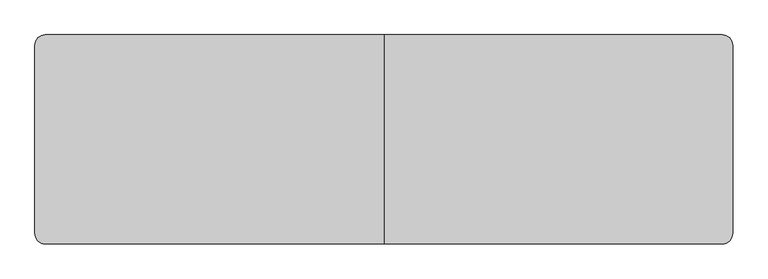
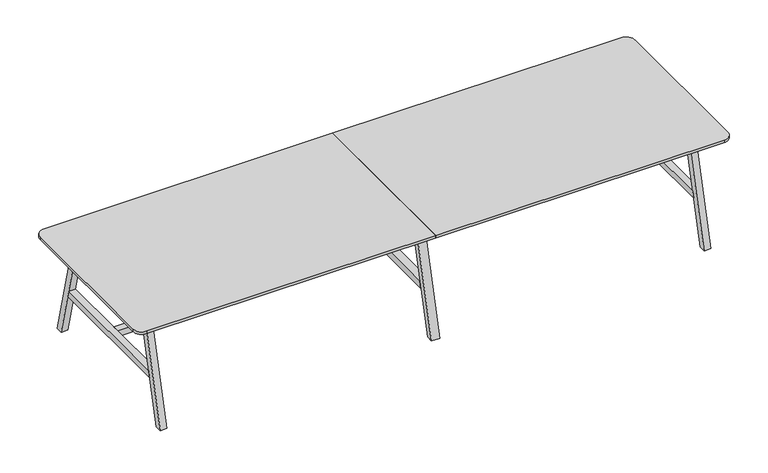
"""IFC4 building model written with IfcOpenShell, lengths in millimetres: furniture geometry, BDG_BossDesign_Tbls_AgentTables6Legs : AGE-DT-6L-4000-1200-3D."""

from ifc_helpers import new_model, si_unit, point, frame, frame_2d, origin, place, context, project, spatial, polyline, circle_curve, trimmed, segment, composite_curve, outline, extrude, source, transform, mapped, element, save


def furniture_56d79fee(model_context):
    return source(origin(), model_context, "Body", "SweptSolid", [
        extrude(outline(polyline([(600.0, 0.0), (554.9999949, 0.0), (385.5, 660.0), (430.5000051, 660.0), (600.0, 0.0)])), frame((-27.5, 0.0, 0.0), z_axis=(1.0, 0.0, 0.0), x_axis=(0.0, 1.0, 0.0)), (0.0, 0.0, 1.0), 55.0),
        extrude(outline(polyline([(-600.0, 0.0), (-430.5000051, 660.0), (-385.5, 660.0), (-554.9999949, 0.0), (-600.0, 0.0)])), frame((-27.5, 0.0, 0.0), z_axis=(1.0, 0.0, 0.0), x_axis=(0.0, 1.0, 0.0)), (0.0, 0.0, 1.0), 55.0),
        extrude(outline(polyline([(477.9545427, 300.0), (-477.9545427, 300.0), (-466.3977249, 345.0), (466.3977249, 345.0), (477.9545427, 300.0)])), frame((-27.5, 0.0, 0.0), z_axis=(1.0, 0.0, 0.0), x_axis=(0.0, 1.0, 0.0)), (0.0, 0.0, 1.0), 55.0),
        extrude(outline(composite_curve([segment(polyline([(0.0, 600.0), (0.0, -600.0), (-1940.0, -600.0)]), True, "CONTINUOUS"), segment(trimmed(circle_curve(frame_2d((-1940.0, -540.0)), 60.0), [point((-1940.0, -600.0))], [point((-2000.0, -540.0))], False, "CARTESIAN"), True, "CONTINUOUS"), segment(polyline([(-2000.0, -540.0), (-2000.0, 540.0)]), True, "CONTINUOUS"), segment(trimmed(circle_curve(frame_2d((-1940.0, 540.0)), 60.0), [point((-2000.0, 540.0))], [point((-1940.0, 600.0))], False, "CARTESIAN"), True, "CONTINUOUS"), segment(polyline([(-1940.0, 600.0), (0.0, 600.0)]), True, "CONTINUOUS")], self_intersect=False)), frame((0.0, 0.0, 722.0), z_axis=(0.0, 0.0, 1.0), x_axis=(1.0, 0.0, 0.0)), (0.0, 0.0, 1.0), 18.0),
        extrude(outline(polyline([(-466.3977249, 345.0), (466.3977249, 345.0), (477.9545427, 300.0), (-477.9545427, 300.0), (-466.3977249, 345.0)])), frame((1805.0, 0.0, 0.0), z_axis=(1.0, 0.0, 0.0), x_axis=(0.0, 1.0, 0.0)), (0.0, 0.0, 1.0), 45.0),
        extrude(outline(polyline([(600.0, 0.0), (554.9999949, 0.0), (385.5, 660.0), (430.5000051, 660.0), (600.0, 0.0)])), frame((-1850.0, 0.0, 0.0), z_axis=(1.0, 0.0, 0.0), x_axis=(0.0, 1.0, 0.0)), (0.0, 0.0, 1.0), 45.0),
        extrude(outline(polyline([(-600.0, 0.0), (-430.5000051, 660.0), (-385.5, 660.0), (-554.9999949, 0.0), (-600.0, 0.0)])), frame((-1850.0, 0.0, 0.0), z_axis=(1.0, 0.0, 0.0), x_axis=(0.0, 1.0, 0.0)), (0.0, 0.0, 1.0), 45.0),
        extrude(outline(polyline([(-466.3977249, 345.0), (466.3977249, 345.0), (477.9545427, 300.0), (-477.9545427, 300.0), (-466.3977249, 345.0)])), frame((-1850.0, 0.0, 0.0), z_axis=(1.0, 0.0, 0.0), x_axis=(0.0, 1.0, 0.0)), (0.0, 0.0, 1.0), 45.0),
        extrude(outline(polyline([(-426.6006165, 634.973938), (-404.2770691, 722.0), (-379.5, 722.0), (-401.8235474, 634.973938), (-426.6006165, 634.973938)])), frame((-1805.0, 0.0, 0.0), z_axis=(1.0, 0.0, 0.0), x_axis=(0.0, 1.0, 0.0)), (0.0, 0.0, 1.0), 3610.0),
        extrude(outline(polyline([(426.6006165, 634.973938), (401.8235474, 634.973938), (379.5, 722.0), (404.2770691, 722.0), (426.6006165, 634.973938)])), frame((-1805.0, 0.0, 0.0), z_axis=(1.0, 0.0, 0.0), x_axis=(0.0, 1.0, 0.0)), (0.0, 0.0, 1.0), 3610.0),
        extrude(outline(polyline([(599.7999878, 0.0), (554.7999827, 0.0), (385.5, 660.0), (430.5000051, 660.0), (599.7999878, 0.0)])), frame((1805.0, 0.0, 0.0), z_axis=(1.0, 0.0, 0.0), x_axis=(0.0, 1.0, 0.0)), (0.0, 0.0, 1.0), 45.0),
        extrude(outline(polyline([(-599.7999878, 0.0), (-430.5000051, 660.0), (-385.5, 660.0), (-554.7999827, 0.0), (-599.7999878, 0.0)])), frame((1805.0, 0.0, 0.0), z_axis=(1.0, 0.0, 0.0), x_axis=(0.0, 1.0, 0.0)), (0.0, 0.0, 1.0), 45.0),
        extrude(outline(polyline([(-27.5, 22.5000305), (-27.5, -22.5000305), (-1805.0, -22.5000305), (-1805.0, 22.5000305), (-27.5, 22.5000305)])), frame((0.0, 0.0, 300.0), z_axis=(0.0, 0.0, 1.0), x_axis=(1.0, 0.0, 0.0)), (0.0, 0.0, 1.0), 45.0),
        extrude(outline(polyline([(27.5, -22.5000305), (27.5, 22.5000305), (1805.0, 22.5000305), (1805.0, -22.5000305), (27.5, -22.5000305)])), frame((0.0, 0.0, 300.0), z_axis=(0.0, 0.0, 1.0), x_axis=(1.0, 0.0, 0.0)), (0.0, 0.0, 1.0), 45.0),
        extrude(outline(composite_curve([segment(trimmed(circle_curve(frame_2d((1940.0, 540.0)), 60.0), [point((1940.0, 600.0))], [point((2000.0, 540.0))], False, "CARTESIAN"), True, "CONTINUOUS"), segment(polyline([(2000.0, 540.0), (2000.0, -540.0)]), True, "CONTINUOUS"), segment(trimmed(circle_curve(frame_2d((1940.0, -540.0)), 60.0), [point((2000.0, -540.0))], [point((1940.0, -600.0))], False, "CARTESIAN"), True, "CONTINUOUS"), segment(polyline([(1940.0, -600.0), (0.0, -600.0), (0.0, 600.0), (1940.0, 600.0)]), True, "CONTINUOUS")], self_intersect=False)), frame((0.0, 0.0, 722.0), z_axis=(0.0, 0.0, 1.0), x_axis=(1.0, 0.0, 0.0)), (0.0, 0.0, 1.0), 18.0),
    ])


if __name__ == "__main__":
    model = new_model("IFC4")
    model_context = context("Model", 3, world=origin())
    ifc_project = project(units=[si_unit("LENGTHUNIT", "METRE", prefix="MILLI")], contexts=[model_context])
    site = spatial("IfcSite", under=ifc_project)
    building = spatial("IfcBuilding", under=site)
    placement = place(None, origin())
    furniture_shape = furniture_56d79fee(model_context)
    element("IfcFurniture", 1, ObjectType="BDG_BossDesign_Tbls_AgentTables6Legs : AGE-DT-6L-4000-1200-3D", at=placement, inside=building, context=model_context, shape_type="MappedRepresentation", body=[
        mapped(furniture_shape, transform((0.0, 0.0, 0.0), x_axis=(1.0, 0.0, 0.0), y_axis=(0.0, 1.0, 0.0), z_axis=(0.0, 0.0, 1.0))),
    ])
    save(model, "model.ifc")
